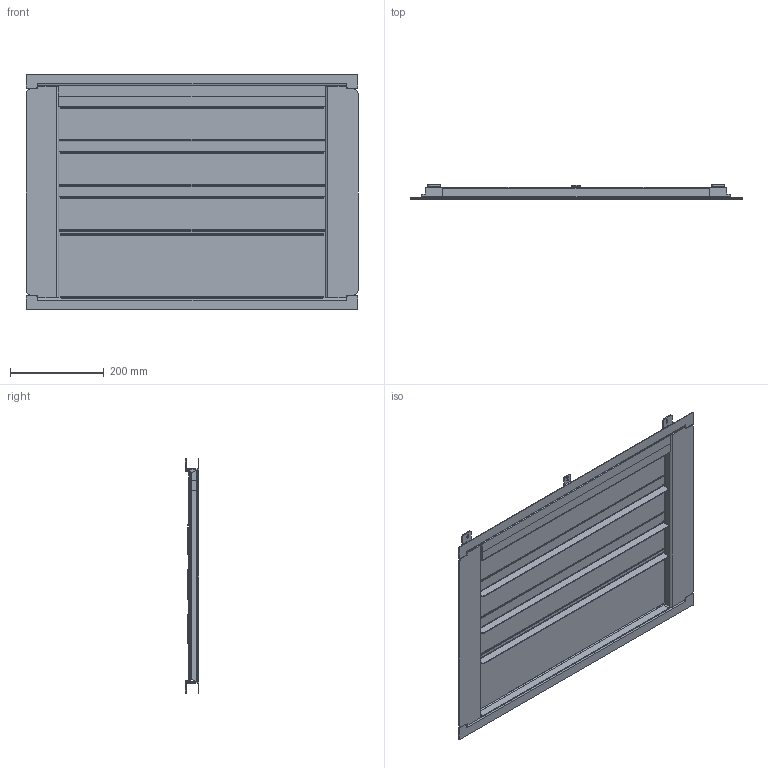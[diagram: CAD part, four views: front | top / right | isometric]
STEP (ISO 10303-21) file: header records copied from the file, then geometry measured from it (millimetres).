
FILE_DESCRIPTION (( 'STEP AP203' ), '1' );
FILE_NAME ('p2bgpi86.STEP', '2019-04-10T22:42:58', ( '' ), ( '' ), 'SwSTEP 2.0', 'SolidWorks 2016', '' );
FILE_SCHEMA (( 'CONFIG_CONTROL_DESIGN' ));
Length unit declared in the file: millimetre
Products named in the file (6): 89166265_89001805; 89166268; 89166270; 89129211; 89128541; p2bgpi86
Assembly tree (10 placements, depth 2):
  p2bgpi86
    89166265_89001805  x2
    89166268  x2
    89166270
    89129211  x3
    89128541  x2
Bounding box: 707.42 x 29.64 x 502.57 mm (x, y, z)
Volume: 1634178.2 mm3; surface area: 1242741.7 mm2
Topology: 10 solids, 10 shells, 560 faces, 1414 edges, 874 vertices
Faces by surface type: plane 330, cylinder 230
Entity records: 9219 total; most frequent: DIRECTION 1525, CARTESIAN_POINT 1441, ORIENTED_EDGE 1418, EDGE_CURVE 709, AXIS2_PLACEMENT_3D 524, LINE 477, VECTOR 477, VERTEX_POINT 440
